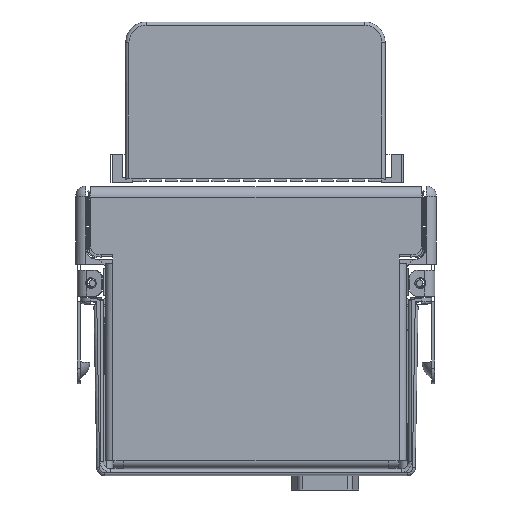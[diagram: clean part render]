
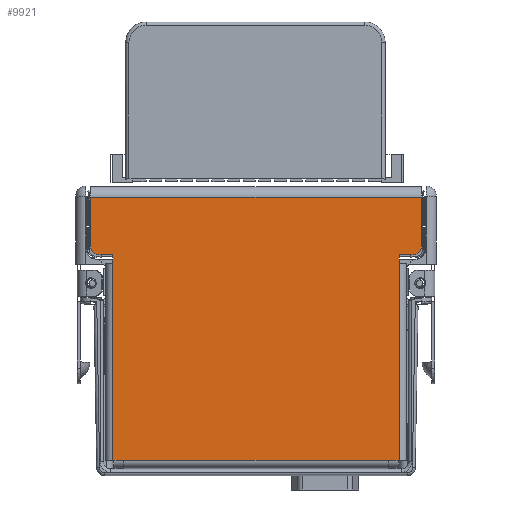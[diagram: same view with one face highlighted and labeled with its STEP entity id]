
A CAD part, left-side view. The second image highlights one B-rep face of the part: STEP entity #9921.
In plain terms, the highlighted planar face has unit normal (-1, 0, 0).
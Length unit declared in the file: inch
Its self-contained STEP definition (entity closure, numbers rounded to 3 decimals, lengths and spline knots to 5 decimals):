
#9584=CARTESIAN_POINT('',(-0.4475,1.5095,2.201));
#9585=DIRECTION('',(1.,0.,0.));
#9586=DIRECTION('',(0.,0.,-1.));
#9587=AXIS2_PLACEMENT_3D('',#9584,#9585,#9586);
#9589=DIRECTION('',(0.,0.,1.));
#9590=VECTOR('',#9589,0.476);
#9591=CARTESIAN_POINT('',(-0.4475,1.5895,2.201));
#9592=LINE('',#9591,#9590);
#9593=DIRECTION('',(0.,0.,-1.));
#9594=VECTOR('',#9593,0.476);
#9595=CARTESIAN_POINT('',(-0.4475,-1.5895,2.677));
#9596=LINE('',#9595,#9594);
#9597=CARTESIAN_POINT('',(-0.4475,-1.5095,2.201));
#9598=DIRECTION('',(1.,0.,0.));
#9599=DIRECTION('',(0.,-1.,0.));
#9600=AXIS2_PLACEMENT_3D('',#9597,#9598,#9599);
#9602=DIRECTION('',(0.,1.,0.));
#9603=VECTOR('',#9602,0.133);
#9604=CARTESIAN_POINT('',(-0.4475,-1.5095,2.121));
#9605=LINE('',#9604,#9603);
#9606=DIRECTION('',(0.,0.,-1.));
#9607=VECTOR('',#9606,0.079);
#9608=CARTESIAN_POINT('',(-0.4475,-1.3765,2.121));
#9609=LINE('',#9608,#9607);
#9610=DIRECTION('',(0.,1.,0.));
#9611=VECTOR('',#9610,0.105);
#9612=CARTESIAN_POINT('',(-0.4475,-1.3765,0.147));
#9613=LINE('',#9612,#9611);
#9614=DIRECTION('',(0.,1.,0.));
#9615=VECTOR('',#9614,0.105);
#9616=CARTESIAN_POINT('',(-0.4475,1.2715,0.147));
#9617=LINE('',#9616,#9615);
#9618=DIRECTION('',(0.,0.,1.));
#9619=VECTOR('',#9618,0.079);
#9620=CARTESIAN_POINT('',(-0.4475,1.3765,2.042));
#9621=LINE('',#9620,#9619);
#9622=DIRECTION('',(0.,1.,0.));
#9623=VECTOR('',#9622,0.133);
#9624=CARTESIAN_POINT('',(-0.4475,1.3765,2.121));
#9625=LINE('',#9624,#9623);
#9665=DIRECTION('',(0.,-1.,0.));
#9666=VECTOR('',#9665,3.179);
#9667=CARTESIAN_POINT('',(-0.4475,1.5895,2.677));
#9668=LINE('',#9667,#9666);
#9716=DIRECTION('',(0.,-1.,0.));
#9717=VECTOR('',#9716,2.543);
#9718=CARTESIAN_POINT('',(-0.4475,1.2715,0.147));
#9719=LINE('',#9718,#9717);
#9720=DIRECTION('',(0.,0.,1.));
#9721=VECTOR('',#9720,1.895);
#9722=CARTESIAN_POINT('',(-0.4475,-1.3765,0.147));
#9723=LINE('',#9722,#9721);
#9743=DIRECTION('',(0.,0.,1.));
#9744=VECTOR('',#9743,1.895);
#9745=CARTESIAN_POINT('',(-0.4475,1.3765,0.147));
#9746=LINE('',#9745,#9744);
#9810=CARTESIAN_POINT('',(-0.4475,-1.5895,2.677));
#9811=VERTEX_POINT('',#9810);
#9812=CARTESIAN_POINT('',(-0.4475,1.5895,2.677));
#9813=VERTEX_POINT('',#9812);
#9826=CARTESIAN_POINT('',(-0.4475,1.2715,0.147));
#9827=CARTESIAN_POINT('',(-0.4475,-1.2715,0.147));
#9828=VERTEX_POINT('',#9826);
#9829=VERTEX_POINT('',#9827);
#9834=CARTESIAN_POINT('',(-0.4475,-1.3765,0.147));
#9835=VERTEX_POINT('',#9834);
#9840=CARTESIAN_POINT('',(-0.4475,1.3765,0.147));
#9841=VERTEX_POINT('',#9840);
#9850=CARTESIAN_POINT('',(-0.4475,1.5895,2.201));
#9851=CARTESIAN_POINT('',(-0.4475,1.5095,2.121));
#9852=VERTEX_POINT('',#9850);
#9853=VERTEX_POINT('',#9851);
#9854=CARTESIAN_POINT('',(-0.4475,-1.5095,2.121));
#9855=CARTESIAN_POINT('',(-0.4475,-1.5895,2.201));
#9856=VERTEX_POINT('',#9854);
#9857=VERTEX_POINT('',#9855);
#9860=CARTESIAN_POINT('',(-0.4475,-1.3765,2.042));
#9861=VERTEX_POINT('',#9860);
#9862=CARTESIAN_POINT('',(-0.4475,-1.3765,2.121));
#9863=VERTEX_POINT('',#9862);
#9874=CARTESIAN_POINT('',(-0.4475,1.3765,2.042));
#9875=CARTESIAN_POINT('',(-0.4475,1.3765,2.121));
#9876=VERTEX_POINT('',#9874);
#9877=VERTEX_POINT('',#9875);
#9886=CARTESIAN_POINT('',(-0.4475,0.,1.422));
#9887=DIRECTION('',(-1.,0.,0.));
#9888=DIRECTION('',(0.,1.,0.));
#9889=AXIS2_PLACEMENT_3D('',#9886,#9887,#9888);
#9890=PLANE('',#9889);
#9892=ORIENTED_EDGE('',*,*,#9891,.T.);
#9894=ORIENTED_EDGE('',*,*,#9893,.T.);
#9896=ORIENTED_EDGE('',*,*,#9895,.T.);
#9898=ORIENTED_EDGE('',*,*,#9897,.T.);
#9900=ORIENTED_EDGE('',*,*,#9899,.T.);
#9902=ORIENTED_EDGE('',*,*,#9901,.T.);
#9904=ORIENTED_EDGE('',*,*,#9903,.T.);
#9906=ORIENTED_EDGE('',*,*,#9905,.F.);
#9908=ORIENTED_EDGE('',*,*,#9907,.T.);
#9910=ORIENTED_EDGE('',*,*,#9909,.F.);
#9912=ORIENTED_EDGE('',*,*,#9911,.T.);
#9914=ORIENTED_EDGE('',*,*,#9913,.T.);
#9916=ORIENTED_EDGE('',*,*,#9915,.T.);
#9918=ORIENTED_EDGE('',*,*,#9917,.T.);
#9919=EDGE_LOOP('',(#9892,#9894,#9896,#9898,#9900,#9902,#9904,#9906,#9908,#9910,
#9912,#9914,#9916,#9918));
#9920=FACE_OUTER_BOUND('',#9919,.F.);
#9921=ADVANCED_FACE('',(#9920),#9890,.T.);
#9588=CIRCLE('',#9587,0.08);
#9601=CIRCLE('',#9600,0.08);
#9891=EDGE_CURVE('',#9853,#9852,#9588,.T.);
#9893=EDGE_CURVE('',#9852,#9813,#9592,.T.);
#9895=EDGE_CURVE('',#9813,#9811,#9668,.T.);
#9897=EDGE_CURVE('',#9811,#9857,#9596,.T.);
#9899=EDGE_CURVE('',#9857,#9856,#9601,.T.);
#9901=EDGE_CURVE('',#9856,#9863,#9605,.T.);
#9903=EDGE_CURVE('',#9863,#9861,#9609,.T.);
#9905=EDGE_CURVE('',#9835,#9861,#9723,.T.);
#9907=EDGE_CURVE('',#9835,#9829,#9613,.T.);
#9909=EDGE_CURVE('',#9828,#9829,#9719,.T.);
#9911=EDGE_CURVE('',#9828,#9841,#9617,.T.);
#9913=EDGE_CURVE('',#9841,#9876,#9746,.T.);
#9915=EDGE_CURVE('',#9876,#9877,#9621,.T.);
#9917=EDGE_CURVE('',#9877,#9853,#9625,.T.);
